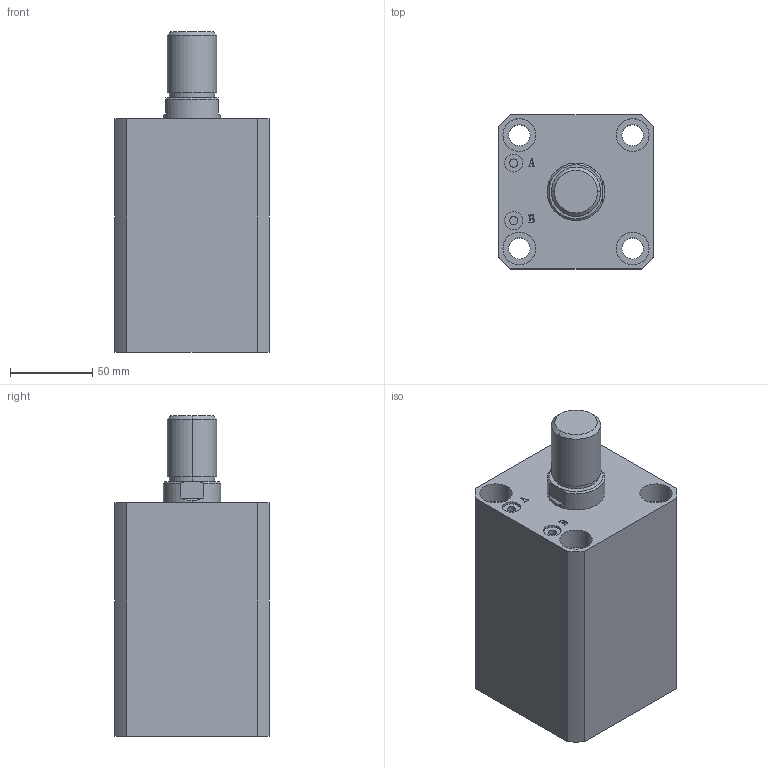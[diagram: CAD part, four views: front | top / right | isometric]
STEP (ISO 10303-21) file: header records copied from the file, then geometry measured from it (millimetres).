
FILE_DESCRIPTION (( 'STEP AP203' ), '1' );
FILE_NAME ('HTB-SDMA63-75W.STEP', '2019-10-08T01:13:48', ( '微软用户' ), ( '微软中国' ), 'SwSTEP 2.0', 'SolidWorks 2012', '' );
FILE_SCHEMA (( 'CONFIG_CONTROL_DESIGN' ));
Length unit declared in the file: millimetre
Products named in the file (3): HTB-SDMA63-75W; HTB-SDMA63-75W活塞杆; HTB-SDMA63-75掛极
Assembly tree (2 placements, depth 2):
  HTB-SDMA63-75W
    HTB-SDMA63-75掛极
    HTB-SDMA63-75W活塞杆
Bounding box: 94 x 94 x 195 mm (x, y, z)
Volume: 1023257.4 mm3; surface area: 146600.8 mm2
Topology: 2 solids, 2 shells, 141 faces, 337 edges, 222 vertices
Faces by surface type: plane 67, cylinder 48, bspline 16, torus 6, cone 4
Entity records: 5176 total; most frequent: CARTESIAN_POINT 1593, ORIENTED_EDGE 674, DIRECTION 669, EDGE_CURVE 337, AXIS2_PLACEMENT_3D 242, VERTEX_POINT 222, LINE 185, VECTOR 185
